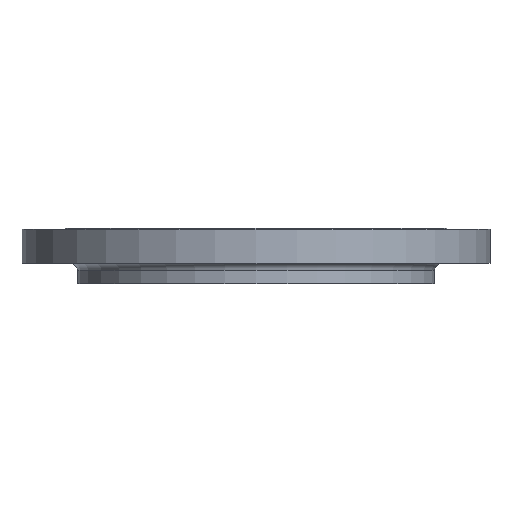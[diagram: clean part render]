
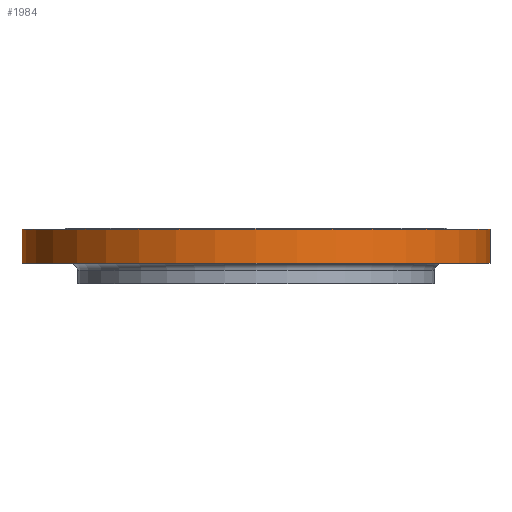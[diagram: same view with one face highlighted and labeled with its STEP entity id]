
A CAD part, front view. The second image highlights one B-rep face of the part: STEP entity #1984.
In plain terms, the highlighted cylindrical face has radius 377.5 mm (diameter 755 mm), a partial arc.
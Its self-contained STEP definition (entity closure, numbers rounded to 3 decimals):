
#38 = LINE ( 'NONE', #706, #1845 ) ;
#101 = AXIS2_PLACEMENT_3D ( 'NONE', #1649, #213, #866 ) ;
#103 = CIRCLE ( 'NONE', #101, 377.5 ) ;
#124 = DIRECTION ( 'NONE',  ( 0., 0., 1. ) ) ;
#157 = VERTEX_POINT ( 'NONE', #1049 ) ;
#213 = DIRECTION ( 'NONE',  ( 0., 0., -1. ) ) ;
#259 = CARTESIAN_POINT ( 'NONE',  ( 0., 0., -57. ) ) ;
#291 = FACE_OUTER_BOUND ( 'NONE', #1741, .T. ) ;
#446 = CARTESIAN_POINT ( 'NONE',  ( -377.5, 0., -150. ) ) ;
#510 = VECTOR ( 'NONE', #1104, 1000. ) ;
#539 = ORIENTED_EDGE ( 'NONE', *, *, #653, .T. ) ;
#653 = EDGE_CURVE ( 'NONE', #157, #1531, #979, .T. ) ;
#706 = CARTESIAN_POINT ( 'NONE',  ( 377.5, 0., -150. ) ) ;
#743 = EDGE_CURVE ( 'NONE', #157, #776, #1868, .T. ) ;
#776 = VERTEX_POINT ( 'NONE', #1414 ) ;
#780 = DIRECTION ( 'NONE',  ( 1., 0., 0. ) ) ;
#866 = DIRECTION ( 'NONE',  ( -1., 0., 0. ) ) ;
#908 = DIRECTION ( 'NONE',  ( 0., 0., 1. ) ) ;
#941 = CYLINDRICAL_SURFACE ( 'NONE', #1268, 377.5 ) ;
#979 = CIRCLE ( 'NONE', #1717, 377.5 ) ;
#1018 = EDGE_CURVE ( 'NONE', #1531, #1863, #38, .T. ) ;
#1049 = CARTESIAN_POINT ( 'NONE',  ( -377.5, 0., -57. ) ) ;
#1081 = CARTESIAN_POINT ( 'NONE',  ( 377.5, 0., -57. ) ) ;
#1104 = DIRECTION ( 'NONE',  ( 0., 0., 1. ) ) ;
#1268 = AXIS2_PLACEMENT_3D ( 'NONE', #1572, #124, #780 ) ;
#1341 = DIRECTION ( 'NONE',  ( 0., 0., 1. ) ) ;
#1342 = ORIENTED_EDGE ( 'NONE', *, *, #743, .F. ) ;
#1375 = CARTESIAN_POINT ( 'NONE',  ( 377.5, 0., -2. ) ) ;
#1414 = CARTESIAN_POINT ( 'NONE',  ( -377.5, 0., -2. ) ) ;
#1510 = ORIENTED_EDGE ( 'NONE', *, *, #1018, .T. ) ;
#1531 = VERTEX_POINT ( 'NONE', #1081 ) ;
#1541 = DIRECTION ( 'NONE',  ( 1., 0., 0. ) ) ;
#1572 = CARTESIAN_POINT ( 'NONE',  ( 0., 0., -150. ) ) ;
#1649 = CARTESIAN_POINT ( 'NONE',  ( 0., 0., -2. ) ) ;
#1670 = ORIENTED_EDGE ( 'NONE', *, *, #1766, .T. ) ;
#1717 = AXIS2_PLACEMENT_3D ( 'NONE', #259, #908, #1541 ) ;
#1741 = EDGE_LOOP ( 'NONE', ( #1342, #539, #1510, #1670 ) ) ;
#1766 = EDGE_CURVE ( 'NONE', #1863, #776, #103, .T. ) ;
#1845 = VECTOR ( 'NONE', #1341, 1000. ) ;
#1863 = VERTEX_POINT ( 'NONE', #1375 ) ;
#1868 = LINE ( 'NONE', #446, #510 ) ;
#1984 = ADVANCED_FACE ( 'NONE', ( #291 ), #941, .T. ) ;
